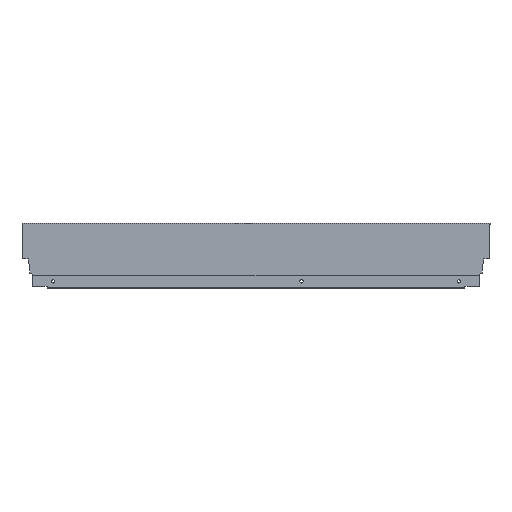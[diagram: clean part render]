
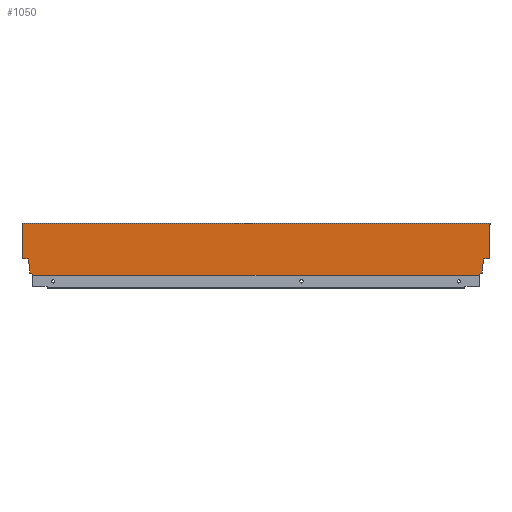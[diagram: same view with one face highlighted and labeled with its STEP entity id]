
A CAD part, top view. The second image highlights one B-rep face of the part: STEP entity #1050.
In plain terms, the highlighted planar face has unit normal (0, 0, 1).
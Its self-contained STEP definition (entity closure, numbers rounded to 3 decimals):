
#66 = FACE_OUTER_BOUND ( 'NONE', #1330, .T. ) ;
#125 = VERTEX_POINT ( 'NONE', #219 ) ;
#132 = VERTEX_POINT ( 'NONE', #224 ) ;
#133 = VERTEX_POINT ( 'NONE', #225 ) ;
#142 = VERTEX_POINT ( 'NONE', #233 ) ;
#144 = VERTEX_POINT ( 'NONE', #235 ) ;
#155 = VERTEX_POINT ( 'NONE', #246 ) ;
#156 = VERTEX_POINT ( 'NONE', #247 ) ;
#158 = VERTEX_POINT ( 'NONE', #249 ) ;
#159 = VERTEX_POINT ( 'NONE', #250 ) ;
#160 = VERTEX_POINT ( 'NONE', #251 ) ;
#166 = VERTEX_POINT ( 'NONE', #257 ) ;
#173 = VERTEX_POINT ( 'NONE', #264 ) ;
#174 = VERTEX_POINT ( 'NONE', #265 ) ;
#191 = VERTEX_POINT ( 'NONE', #282 ) ;
#193 = VERTEX_POINT ( 'NONE', #284 ) ;
#198 = VERTEX_POINT ( 'NONE', #289 ) ;
#205 = VERTEX_POINT ( 'NONE', #296 ) ;
#208 = VERTEX_POINT ( 'NONE', #299 ) ;
#219 = CARTESIAN_POINT ( 'NONE',  ( 0., 21.2, 7.5 ) ) ;
#224 = CARTESIAN_POINT ( 'NONE',  ( -607.94, 21.2, 7.5 ) ) ;
#225 = CARTESIAN_POINT ( 'NONE',  ( -606.1, 10.765, 7.5 ) ) ;
#233 = CARTESIAN_POINT ( 'NONE',  ( -606.1, 2.64, 7.5 ) ) ;
#235 = CARTESIAN_POINT ( 'NONE',  ( 0., 66.5, 7.5 ) ) ;
#246 = CARTESIAN_POINT ( 'NONE',  ( -615., 66.5, 7.5 ) ) ;
#247 = CARTESIAN_POINT ( 'NONE',  ( -13.004, 1.146, 7.5 ) ) ;
#249 = CARTESIAN_POINT ( 'NONE',  ( -615., 21.2, 7.5 ) ) ;
#250 = CARTESIAN_POINT ( 'NONE',  ( -8.9, 2.64, 7.5 ) ) ;
#251 = CARTESIAN_POINT ( 'NONE',  ( 1., 68., 7.5 ) ) ;
#257 = CARTESIAN_POINT ( 'NONE',  ( -13.004, 0., 7.5 ) ) ;
#264 = CARTESIAN_POINT ( 'NONE',  ( -616., 66.5, 7.5 ) ) ;
#265 = CARTESIAN_POINT ( 'NONE',  ( -616., 68., 7.5 ) ) ;
#282 = CARTESIAN_POINT ( 'NONE',  ( -8.9, 10.765, 7.5 ) ) ;
#284 = CARTESIAN_POINT ( 'NONE',  ( -7.06, 21.2, 7.5 ) ) ;
#289 = CARTESIAN_POINT ( 'NONE',  ( -601.996, 1.146, 7.5 ) ) ;
#296 = CARTESIAN_POINT ( 'NONE',  ( -601.996, 0., 7.5 ) ) ;
#299 = CARTESIAN_POINT ( 'NONE',  ( 1., 66.5, 7.5 ) ) ;
#337 = CARTESIAN_POINT ( 'NONE',  ( 0., 0., 7.5 ) ) ;
#350 = DIRECTION ( 'NONE',  ( 0., -1., 0. ) ) ;
#454 = CARTESIAN_POINT ( 'NONE',  ( 1., 68., 7.5 ) ) ;
#460 = CARTESIAN_POINT ( 'NONE',  ( -606.1, 2.64, 7.5 ) ) ;
#461 = DIRECTION ( 'NONE',  ( 0., -1., 0. ) ) ;
#462 = CARTESIAN_POINT ( 'NONE',  ( -8.9, 2.64, 7.5 ) ) ;
#463 = DIRECTION ( 'NONE',  ( -0.94, -0.342, 0. ) ) ;
#464 = CARTESIAN_POINT ( 'NONE',  ( 1., 66.5, 7.5 ) ) ;
#465 = DIRECTION ( 'NONE',  ( -1., 0., 0. ) ) ;
#466 = CARTESIAN_POINT ( 'NONE',  ( -13.004, 1.146, 7.5 ) ) ;
#467 = DIRECTION ( 'NONE',  ( 0., -1., 0. ) ) ;
#468 = CARTESIAN_POINT ( 'NONE',  ( 0., 21.2, 7.5 ) ) ;
#469 = DIRECTION ( 'NONE',  ( -1., 0., 0. ) ) ;
#470 = CARTESIAN_POINT ( 'NONE',  ( -601.996, 1.146, 7.5 ) ) ;
#471 = DIRECTION ( 'NONE',  ( 0., 1., 0. ) ) ;
#472 = CARTESIAN_POINT ( 'NONE',  ( -7.06, 21.2, 7.5 ) ) ;
#473 = DIRECTION ( 'NONE',  ( -0.174, -0.985, 0. ) ) ;
#474 = CARTESIAN_POINT ( 'NONE',  ( -606.1, 10.765, 7.5 ) ) ;
#475 = DIRECTION ( 'NONE',  ( 0., 1., 0. ) ) ;
#476 = CARTESIAN_POINT ( 'NONE',  ( -8.9, 10.765, 7.5 ) ) ;
#477 = DIRECTION ( 'NONE',  ( 0., -1., 0. ) ) ;
#478 = CARTESIAN_POINT ( 'NONE',  ( -615., 68., 7.5 ) ) ;
#479 = DIRECTION ( 'NONE',  ( 1., 0., 0. ) ) ;
#480 = CARTESIAN_POINT ( 'NONE',  ( -616., 66.5, 7.5 ) ) ;
#481 = DIRECTION ( 'NONE',  ( -0.94, 0.342, 0. ) ) ;
#482 = CARTESIAN_POINT ( 'NONE',  ( -620., 21.2, 7.5 ) ) ;
#483 = DIRECTION ( 'NONE',  ( -1., 0., 0. ) ) ;
#485 = CARTESIAN_POINT ( 'NONE',  ( -615., 0., 7.5 ) ) ;
#486 = DIRECTION ( 'NONE',  ( 0., -1., 0. ) ) ;
#488 = DIRECTION ( 'NONE',  ( 1., 0., 0. ) ) ;
#489 = CARTESIAN_POINT ( 'NONE',  ( -616., 66.5, 7.5 ) ) ;
#490 = DIRECTION ( 'NONE',  ( 0., 1., 0. ) ) ;
#491 = CARTESIAN_POINT ( 'NONE',  ( -615., 0., 7.5 ) ) ;
#492 = DIRECTION ( 'NONE',  ( 1., 0., 0. ) ) ;
#498 = CARTESIAN_POINT ( 'NONE',  ( -607.94, 21.2, 7.5 ) ) ;
#499 = DIRECTION ( 'NONE',  ( -0.174, 0.985, 0. ) ) ;
#620 = PLANE ( 'NONE',  #996 ) ;
#633 = CARTESIAN_POINT ( 'NONE',  ( -615., 0., 7.5 ) ) ;
#639 = DIRECTION ( 'NONE',  ( 0., 0., 1. ) ) ;
#640 = DIRECTION ( 'NONE',  ( 1., 0., 0. ) ) ;
#849 = EDGE_CURVE ( 'NONE', #144, #125, #1253, .T. ) ;
#902 = EDGE_CURVE ( 'NONE', #160, #208, #1170, .T. ) ;
#903 = EDGE_CURVE ( 'NONE', #159, #156, #1166, .T. ) ;
#904 = EDGE_CURVE ( 'NONE', #208, #144, #1422, .T. ) ;
#905 = EDGE_CURVE ( 'NONE', #156, #166, #1149, .T. ) ;
#906 = EDGE_CURVE ( 'NONE', #125, #193, #1147, .T. ) ;
#907 = EDGE_CURVE ( 'NONE', #205, #198, #1145, .T. ) ;
#908 = EDGE_CURVE ( 'NONE', #193, #191, #1143, .T. ) ;
#909 = EDGE_CURVE ( 'NONE', #142, #133, #1141, .T. ) ;
#910 = EDGE_CURVE ( 'NONE', #191, #159, #1139, .T. ) ;
#911 = EDGE_CURVE ( 'NONE', #174, #160, #1137, .T. ) ;
#912 = EDGE_CURVE ( 'NONE', #198, #142, #1293, .T. ) ;
#913 = EDGE_CURVE ( 'NONE', #132, #158, #1133, .T. ) ;
#914 = EDGE_CURVE ( 'NONE', #155, #158, #1131, .T. ) ;
#915 = EDGE_CURVE ( 'NONE', #173, #155, #1297, .T. ) ;
#916 = EDGE_CURVE ( 'NONE', #173, #174, #1127, .T. ) ;
#917 = EDGE_CURVE ( 'NONE', #205, #166, #1125, .T. ) ;
#920 = EDGE_CURVE ( 'NONE', #133, #132, #1134, .T. ) ;
#996 = AXIS2_PLACEMENT_3D ( 'NONE', #633, #639, #640 ) ;
#1050 = ADVANCED_FACE ( 'NONE', ( #66 ), #620, .T. ) ;
#1124 = VECTOR ( 'NONE', #492, 1000. ) ;
#1125 = LINE ( 'NONE', #491, #1124 ) ;
#1126 = VECTOR ( 'NONE', #490, 1000. ) ;
#1127 = LINE ( 'NONE', #489, #1126 ) ;
#1129 = VECTOR ( 'NONE', #488, 1000. ) ;
#1130 = VECTOR ( 'NONE', #486, 1000. ) ;
#1131 = LINE ( 'NONE', #485, #1130 ) ;
#1132 = VECTOR ( 'NONE', #483, 1000. ) ;
#1133 = LINE ( 'NONE', #482, #1132 ) ;
#1134 = LINE ( 'NONE', #498, #1167 ) ;
#1135 = VECTOR ( 'NONE', #481, 1000. ) ;
#1136 = VECTOR ( 'NONE', #479, 1000. ) ;
#1137 = LINE ( 'NONE', #478, #1136 ) ;
#1138 = VECTOR ( 'NONE', #477, 1000. ) ;
#1139 = LINE ( 'NONE', #476, #1138 ) ;
#1140 = VECTOR ( 'NONE', #475, 1000. ) ;
#1141 = LINE ( 'NONE', #474, #1140 ) ;
#1142 = VECTOR ( 'NONE', #473, 1000. ) ;
#1143 = LINE ( 'NONE', #472, #1142 ) ;
#1144 = VECTOR ( 'NONE', #471, 1000. ) ;
#1145 = LINE ( 'NONE', #470, #1144 ) ;
#1146 = VECTOR ( 'NONE', #469, 1000. ) ;
#1147 = LINE ( 'NONE', #468, #1146 ) ;
#1148 = VECTOR ( 'NONE', #467, 1000. ) ;
#1149 = LINE ( 'NONE', #466, #1148 ) ;
#1150 = VECTOR ( 'NONE', #465, 1000. ) ;
#1166 = LINE ( 'NONE', #462, #1423 ) ;
#1167 = VECTOR ( 'NONE', #499, 1000. ) ;
#1168 = VECTOR ( 'NONE', #461, 1000. ) ;
#1170 = LINE ( 'NONE', #454, #1168 ) ;
#1253 = LINE ( 'NONE', #337, #1263 ) ;
#1263 = VECTOR ( 'NONE', #350, 1000. ) ;
#1293 = LINE ( 'NONE', #460, #1135 ) ;
#1297 = LINE ( 'NONE', #480, #1129 ) ;
#1330 = EDGE_LOOP ( 'NONE', ( #1560, #1561, #1556, #1557, #1558, #1541, #1542, #1554, #1538, #1539, #1540, #1553, #1552, #1551, #1550, #1549, #1548, #1547 ) ) ;
#1422 = LINE ( 'NONE', #464, #1150 ) ;
#1423 = VECTOR ( 'NONE', #463, 1000. ) ;
#1538 = ORIENTED_EDGE ( 'NONE', *, *, #907, .F. ) ;
#1539 = ORIENTED_EDGE ( 'NONE', *, *, #917, .T. ) ;
#1540 = ORIENTED_EDGE ( 'NONE', *, *, #905, .F. ) ;
#1541 = ORIENTED_EDGE ( 'NONE', *, *, #920, .F. ) ;
#1542 = ORIENTED_EDGE ( 'NONE', *, *, #909, .F. ) ;
#1547 = ORIENTED_EDGE ( 'NONE', *, *, #902, .F. ) ;
#1548 = ORIENTED_EDGE ( 'NONE', *, *, #904, .F. ) ;
#1549 = ORIENTED_EDGE ( 'NONE', *, *, #849, .F. ) ;
#1550 = ORIENTED_EDGE ( 'NONE', *, *, #906, .F. ) ;
#1551 = ORIENTED_EDGE ( 'NONE', *, *, #908, .F. ) ;
#1552 = ORIENTED_EDGE ( 'NONE', *, *, #910, .F. ) ;
#1553 = ORIENTED_EDGE ( 'NONE', *, *, #903, .F. ) ;
#1554 = ORIENTED_EDGE ( 'NONE', *, *, #912, .F. ) ;
#1556 = ORIENTED_EDGE ( 'NONE', *, *, #915, .T. ) ;
#1557 = ORIENTED_EDGE ( 'NONE', *, *, #914, .T. ) ;
#1558 = ORIENTED_EDGE ( 'NONE', *, *, #913, .F. ) ;
#1560 = ORIENTED_EDGE ( 'NONE', *, *, #911, .F. ) ;
#1561 = ORIENTED_EDGE ( 'NONE', *, *, #916, .F. ) ;
